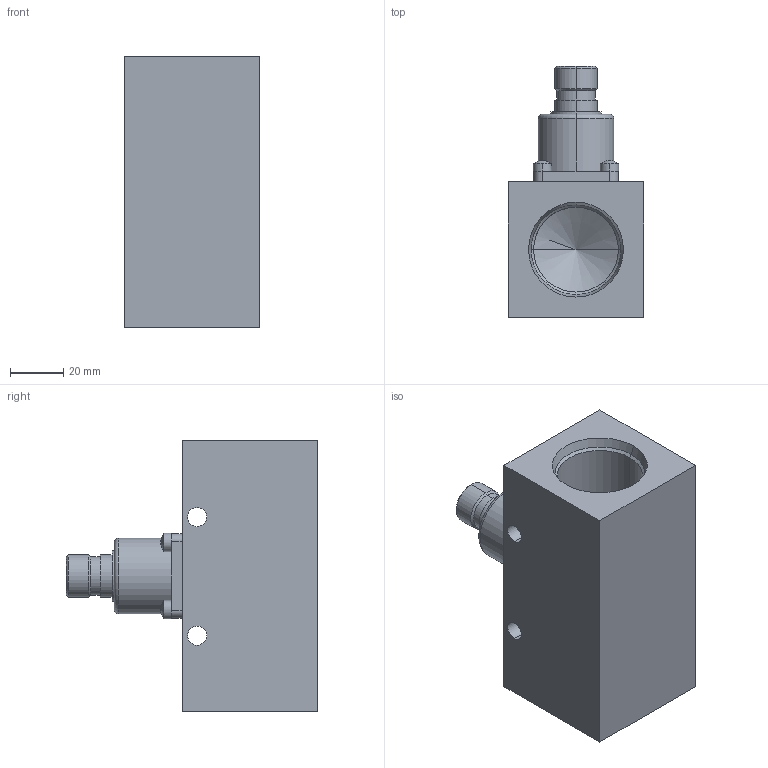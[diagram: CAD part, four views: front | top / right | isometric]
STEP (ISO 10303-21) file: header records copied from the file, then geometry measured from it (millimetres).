
FILE_DESCRIPTION (( 'STEP AP203' ), '1' );
FILE_NAME ('V221F-23.STEP', '2017-01-16T14:04:41', ( 'temp' ), ( '' ), 'SwSTEP 2.0', 'SolidWorks 2012', '' );
FILE_SCHEMA (( 'CONFIG_CONTROL_DESIGN' ));
Length unit declared in the file: inch
Products named in the file (1): V221F-23
Bounding box: 50.8 x 94.23 x 101.6 mm (x, y, z)
Volume: 212874.5 mm3; surface area: 39125.8 mm2
Topology: 1 solids, 1 shells, 84 faces, 200 edges, 122 vertices
Faces by surface type: plane 32, cylinder 30, cone 16, bspline 4, torus 2
Entity records: 3273 total; most frequent: CARTESIAN_POINT 1231, DIRECTION 424, ORIENTED_EDGE 392, EDGE_CURVE 196, AXIS2_PLACEMENT_3D 155, VERTEX_POINT 122, LINE 114, VECTOR 114
